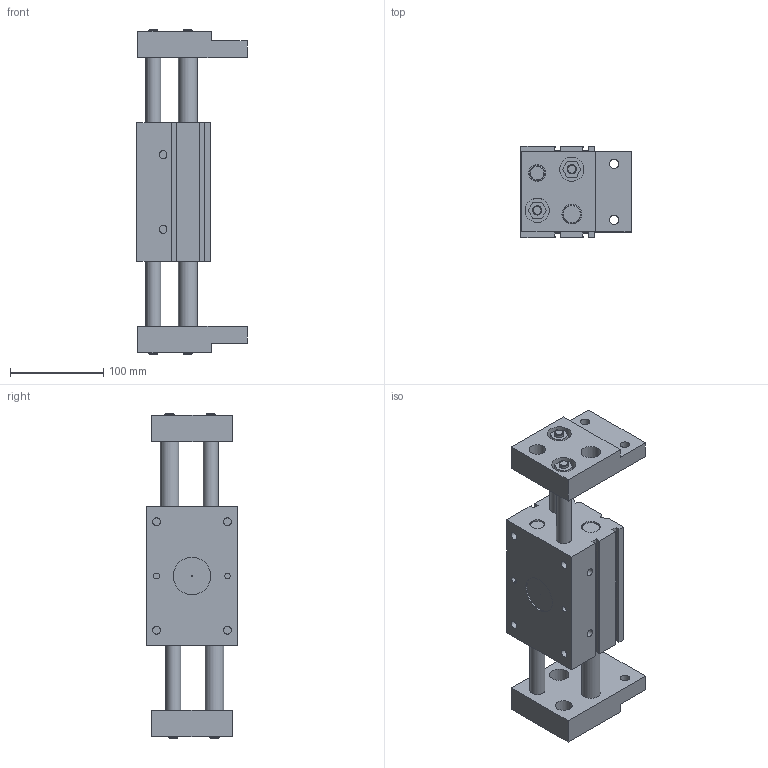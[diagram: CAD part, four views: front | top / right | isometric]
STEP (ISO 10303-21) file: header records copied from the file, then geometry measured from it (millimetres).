
FILE_DESCRIPTION((''),'2;1');
FILE_NAME('I:\Area Tecnica\Disegni\VARIE-3D\Componenti\6311\LIBRERIA AIRO Ø32-40\N-6311_#_D_#\631140D.stp','2011-06-14T10:55:22',('airolcr1'),(''),'Autodesk Inventor 2011','Autodesk Inventor 2011','');
FILE_SCHEMA(('AUTOMOTIVE_DESIGN { 1 0 10303 214 1 1 1 1 }'));
Length unit declared in the file: millimetre
Products named in the file (4): 631140D; N-CORPO Ø40 D; N-DITO Ø40 D; 1-N-DITO Ø40 D
Assembly tree (3 placements, depth 2):
  631140D
    N-CORPO Ø40 D
    N-DITO Ø40 D
    1-N-DITO Ø40 D
Bounding box: 118 x 98 x 348 mm (x, y, z)
Volume: 1624352 mm3; surface area: 235367.8 mm2
Topology: 3 solids, 3 shells, 159 faces, 378 edges, 250 vertices
Faces by surface type: plane 113, cylinder 38, cone 8
Full cylindrical faces by diameter (mm): 0.01 x2, 6 x1, 8.376 x6, 8.566 x2, 10 x4, 10.106 x4, 16 x4, 18 x2, 20 x4, 21 x2, 26 x4, 40 x1
Entity records: 4636 total; most frequent: DIRECTION 744, CARTESIAN_POINT 736, ORIENTED_EDGE 656, EDGE_CURVE 328, EDGE_LOOP 254, AXIS2_PLACEMENT_3D 250, VECTOR 244, LINE 244
